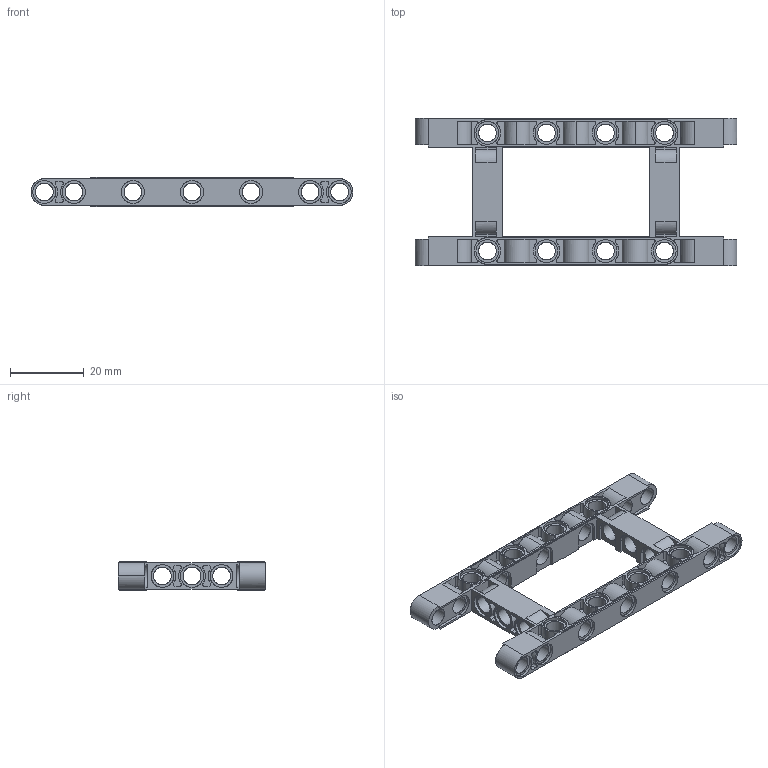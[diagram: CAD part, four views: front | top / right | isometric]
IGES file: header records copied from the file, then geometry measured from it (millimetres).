
Start section: C
Global section: file name: ClGray_4540797_AVV.iges; native system: By Siemens PLM Incorporated; preprocessor: XPlus GENERIC/IGES 26.1.183; author: Author; organization: Title; date: 20250721.235638; units: millimetre
Bounding box: 87.2 x 40 x 8 mm (x, y, z)
Surface area: 11289.7 mm2 (no closed solid volume)
Topology: 0 solids, 0 shells, 592 faces, 3384 edges, 3384 vertices
Faces by surface type: bspline 592
